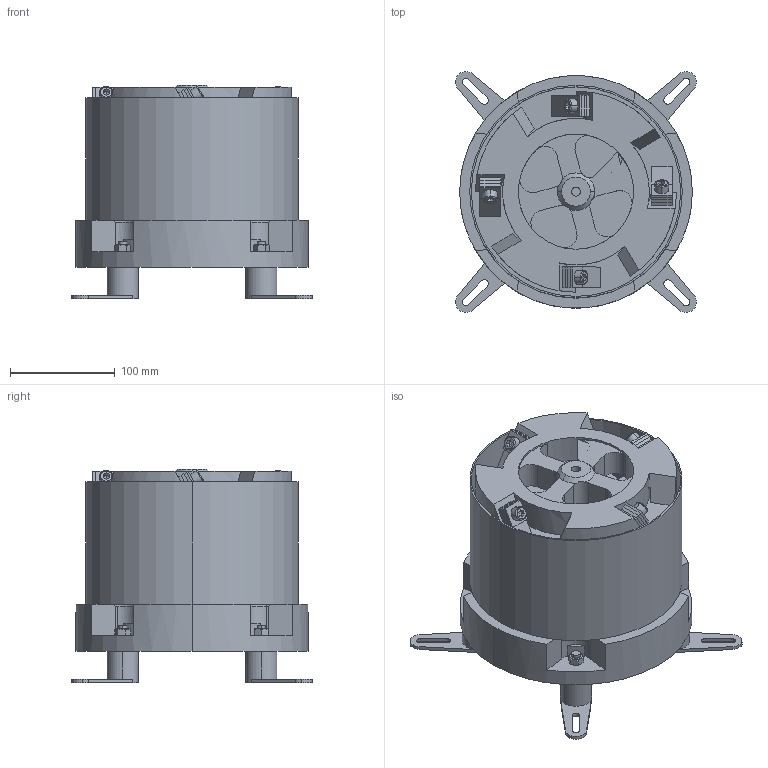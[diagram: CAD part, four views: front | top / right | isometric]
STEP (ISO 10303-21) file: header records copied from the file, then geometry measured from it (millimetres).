
FILE_DESCRIPTION (( 'STEP AP214' ), '1' );
FILE_NAME ('DA200 Ìú¸Ç_2023.STEP', '2023-10-04T06:15:28', ( '' ), ( '' ), 'SwSTEP 2.0', 'SolidWorks 2022', '' );
FILE_SCHEMA (( 'AUTOMOTIVE_DESIGN' ));
Length unit declared in the file: millimetre
Products named in the file (1): DA200  沺裔_2023
Bounding box: 230.01 x 230.01 x 204 mm (x, y, z)
Volume: 4532219.9 mm3; surface area: 450112.2 mm2
Topology: 23 solids, 27 shells, 518 faces, 1269 edges, 822 vertices
Faces by surface type: plane 291, cylinder 159, cone 53, bspline 15
Entity records: 16177 total; most frequent: CARTESIAN_POINT 3673, DIRECTION 2546, ORIENTED_EDGE 2522, EDGE_CURVE 1261, AXIS2_PLACEMENT_3D 937, VERTEX_POINT 822, LINE 672, VECTOR 672
